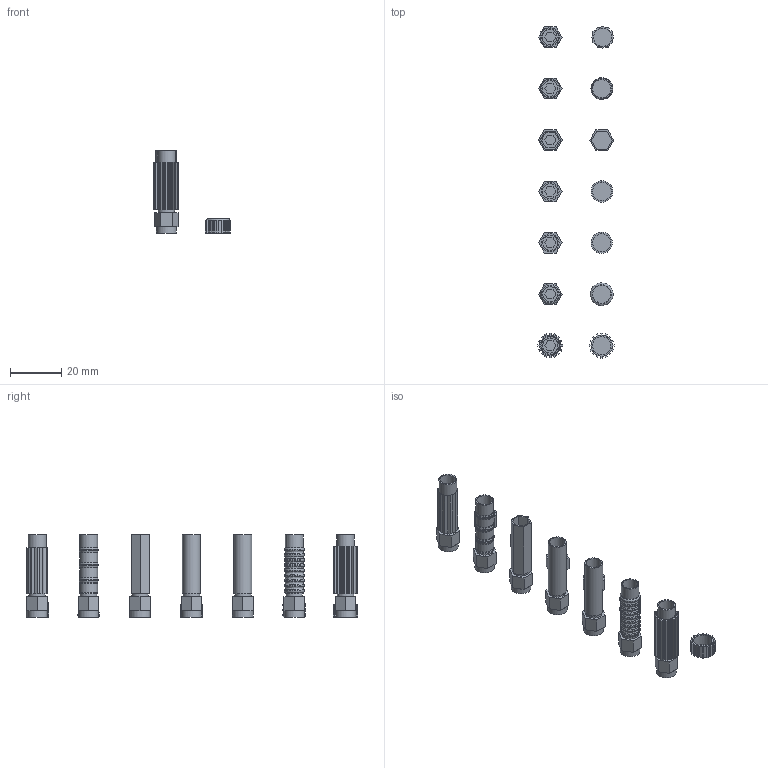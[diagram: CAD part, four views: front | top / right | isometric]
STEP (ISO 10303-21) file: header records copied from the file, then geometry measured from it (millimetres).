
FILE_DESCRIPTION(/* description */ (''),/* implementation_level */ '2;1');
FILE_NAME(/* name */ 'All Antenna.step',/* time_stamp */ '2025-11-15T10:00:49-05:00',/* author */ (''),/* organization */ (''),/* preprocessor_version */ 'ST-DEVELOPER v20.1',/* originating_system */ 'Autodesk Translation Framework v14.21.0.0',/* authorisation */ '');
FILE_SCHEMA (('AUTOMOTIVE_DESIGN { 1 0 10303 214 3 1 1 }'));
Length unit declared in the file: millimetre
Products named in the file (8): (Unsaved); Heat Sink; Wavy; Stright ; Fuzzy; Hex; Bamboo; Pillar
Assembly tree (7 placements, depth 2):
  (Unsaved)
    Heat Sink
    Wavy
    Stright 
    Fuzzy
    Hex
    Bamboo
    Pillar
Bounding box: 29.6 x 129.14 x 32 mm (x, y, z)
Volume: 6100.9 mm3; surface area: 14016.1 mm2
Topology: 21 solids, 21 shells, 604 faces, 1494 edges, 971 vertices
Faces by surface type: plane 349, cylinder 155, torus 60, bspline 23, cone 17
Full cylindrical faces by diameter (mm): 1 x7, 5.85 x2, 5.875 x10, 5.967 x1, 5.992 x2, 6.4 x7, 6.6 x7, 6.85 x3, 6.875 x1, 6.95 x1, 6.986 x1, 7.013 x6, 7.043 x1, 7.05 x1, 7.114 x1, 7.126 x1, 7.325 x1, 7.7 x7, 7.85 x9, 8.25 x1, 8.415 x1, 8.85 x3
Entity records: 19748 total; most frequent: CARTESIAN_POINT 4962, DIRECTION 3048, ORIENTED_EDGE 2974, EDGE_CURVE 1487, AXIS2_PLACEMENT_3D 1052, VERTEX_POINT 971, LINE 944, VECTOR 944
